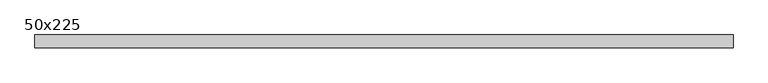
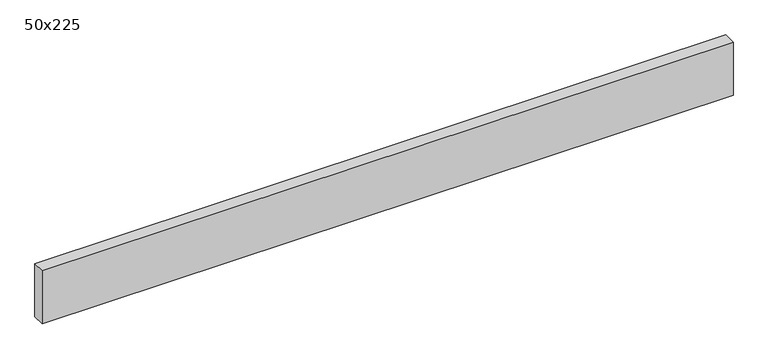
"""IFC4 building model written with IfcOpenShell, lengths in millimetres: beam geometry, Graded Timber : 50x225."""

from ifc_helpers import new_model, si_unit, frame, origin, place, context, project, spatial, polyline, outline, extrude, source, transform, mapped, element, save


def beam_50x225_90cf546c(model_context):
    return source(origin(), model_context, "Body", "SweptSolid", [
        extrude(outline(polyline([(1336.0, 25.0), (1336.0, -25.0), (-1376.2910045, -25.0), (-1376.2910045, 25.0), (1336.0, 25.0)])), frame((0.0, 0.0, -110.0), z_axis=(0.0, 0.0, 1.0), x_axis=(1.0, 0.0, 0.0)), (0.0, 0.0, 1.0), 220.0),
    ])


if __name__ == "__main__":
    model = new_model("IFC4")
    model_context = context("Model", 3, world=origin())
    ifc_project = project(units=[si_unit("LENGTHUNIT", "METRE", prefix="MILLI")], contexts=[model_context])
    site = spatial("IfcSite", under=ifc_project)
    building = spatial("IfcBuilding", under=site)
    placement = place(None, origin())
    beam_50x225_shape = beam_50x225_90cf546c(model_context)
    element("IfcBeam", 1, ObjectType="Graded Timber : 50x225", at=placement, inside=building, context=model_context, shape_type="MappedRepresentation", body=[
        mapped(beam_50x225_shape, transform((0.0, 0.0, 0.0), x_axis=(1.0, 0.0, 0.0), y_axis=(0.0, 1.0, 0.0), z_axis=(0.0, 0.0, 1.0))),
    ])
    save(model, "model.ifc")
